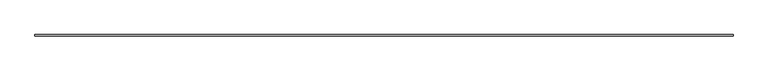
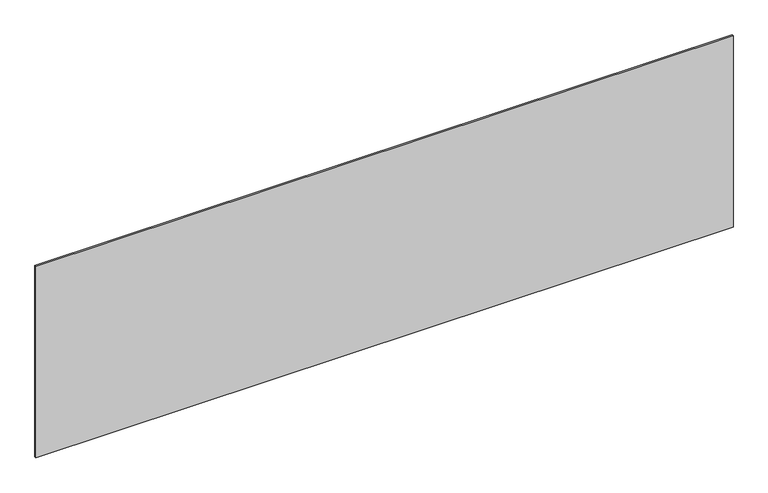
"""IFC4 building model written with IfcOpenShell, lengths in millimetres: plate geometry, システム パネル : 標準."""

import ifcopenshell
import ifcopenshell.guid

model = None  # the IFC model being written
_history = None  # IfcOwnerHistory: only IFC2X3 demands one
_inside = {}  # id of a spatial element -> (the spatial element, [elements in it])
_under = {}  # id of a project, library or spatial element -> (it, [spatial elements below it])
_declared = {}  # id of a project -> (the project, [libraries it declares])
_typed = {}  # id of a type object -> (the type object, [elements of that type])
_made_of = {}  # id of a material, layer set ... -> (it, [elements and type objects made of it])


def new_model(schema):
    """Start an empty IFC model of exactly this schema.

    Asked for "IFC4X3", IfcOpenShell would pick the latest addendum, in which some entities
    have other attributes; the version numbers below select the first issue.
    IFC2X3 requires an IfcOwnerHistory on every rooted entity: one is made here for all.
    """
    global model, _history
    if schema == "IFC4X3":
        model = ifcopenshell.file(schema_version=(4, 3, 0, 0))
    else:
        model = ifcopenshell.file(schema=schema)
    _inside.clear()
    _under.clear()
    _declared.clear()
    _typed.clear()
    _made_of.clear()
    _history = None
    if model.schema == "IFC2X3":
        org = make("IfcOrganization", Name="unknown")
        user = make(
            "IfcPersonAndOrganization",
            ThePerson=make("IfcPerson", FamilyName="unknown"),
            TheOrganization=org,
        )
        app = make(
            "IfcApplication",
            ApplicationDeveloper=org,
            Version="unknown",
            ApplicationFullName="unknown",
            ApplicationIdentifier="unknown",
        )
        _history = make(
            "IfcOwnerHistory",
            OwningUser=user,
            OwningApplication=app,
            ChangeAction="ADDED",
            CreationDate=0,
        )
    return model


def make(cls, **values):
    """One entity of the class cls with the attributes given. An attribute that is None is left unset."""
    return model.create_entity(
        cls, **{name: value for name, value in values.items() if value is not None}
    )


def rooted(cls, **values):
    """An entity with a GlobalId (a new one), such as an element, a storey or a relation."""
    return make(cls, GlobalId=ifcopenshell.guid.new(), OwnerHistory=_history, **values)


def si_unit(unit_type, name, prefix=None):
    """IfcSIUnit, for example si_unit("LENGTHUNIT", "METRE", prefix="MILLI")."""
    return make("IfcSIUnit", UnitType=unit_type, Prefix=prefix, Name=name)


def assignment(units):
    """IfcUnitAssignment: the units of a project."""
    return None if units is None else make("IfcUnitAssignment", Units=units)


def point(xyz):
    """IfcCartesianPoint."""
    return None if xyz is None else make("IfcCartesianPoint", Coordinates=xyz)


def direction(xyz):
    """IfcDirection."""
    return None if xyz is None else make("IfcDirection", DirectionRatios=xyz)


def frame(location, z_axis=None, x_axis=None):
    """IfcAxis2Placement3D, a coordinate frame: its origin and axes. An axis left out is left unset."""
    return make(
        "IfcAxis2Placement3D",
        Location=point(location),
        Axis=direction(z_axis),
        RefDirection=direction(x_axis),
    )


def origin():
    """The frame at (0, 0, 0) with its axes left unset."""
    return frame((0.0, 0.0, 0.0))


def origin_with_axes():
    """The frame at (0, 0, 0) with the z axis (0, 0, 1) and the x axis (1, 0, 0) written out."""
    return frame((0.0, 0.0, 0.0), z_axis=(0.0, 0.0, 1.0), x_axis=(1.0, 0.0, 0.0))


def place(relative_to, where):
    """IfcLocalPlacement: puts the frame where relative to a parent placement (None: the world)."""
    return make(
        "IfcLocalPlacement", PlacementRelTo=relative_to, RelativePlacement=where
    )


def context(
    kind, dimensions, precision=None, world=None, true_north=None, identifier=None
):
    """IfcGeometricRepresentationContext, for example the 3D "Model" context."""
    return make(
        "IfcGeometricRepresentationContext",
        ContextIdentifier=identifier,
        ContextType=kind,
        CoordinateSpaceDimension=dimensions,
        Precision=precision,
        WorldCoordinateSystem=world,
        TrueNorth=true_north,
    )


def project(units=None, contexts=None):
    """IfcProject with its units and contexts."""
    return rooted(
        "IfcProject",
        Name="project",
        RepresentationContexts=contexts,
        UnitsInContext=assignment(units),
    )


def spatial(cls, under=None, at=None, **own):
    """A site, building, storey or space (cls), placed at a placement, below another one or the project."""
    s = rooted(cls, ObjectPlacement=at, **own)
    if under is not None:
        _under.setdefault(under.id(), (under, []))[1].append(s)
    return s


def polyline(points):
    """IfcPolyline through the points."""
    return make("IfcPolyline", Points=[point(p) for p in points])


def outline(outer, holes=None, kind="AREA"):
    """IfcArbitraryClosedProfileDef: a profile drawn as a closed curve; with holes, ...WithVoids."""
    if holes is None:
        return make("IfcArbitraryClosedProfileDef", ProfileType=kind, OuterCurve=outer)
    return make(
        "IfcArbitraryProfileDefWithVoids",
        ProfileType=kind,
        OuterCurve=outer,
        InnerCurves=holes,
    )


def extrude(swept, where, along, depth):
    """IfcExtrudedAreaSolid: the profile swept, set in the frame where, extruded along a direction by depth."""
    return make(
        "IfcExtrudedAreaSolid",
        SweptArea=swept,
        Position=where,
        ExtrudedDirection=direction(along),
        Depth=depth,
    )


def shape(context_of_items, identifier, shape_type, items):
    """IfcShapeRepresentation: the items that make up one representation, for example the "Body"."""
    return make(
        "IfcShapeRepresentation",
        ContextOfItems=context_of_items,
        RepresentationIdentifier=identifier,
        RepresentationType=shape_type,
        Items=items,
    )


def source(mapping_origin, context_of_items, identifier, shape_type, items):
    """IfcRepresentationMap: a shape defined once, which mapped items show again and again."""
    return make(
        "IfcRepresentationMap",
        MappingOrigin=mapping_origin,
        MappedRepresentation=shape(context_of_items, identifier, shape_type, items),
    )


def transform(
    local_origin,
    x_axis=None,
    y_axis=None,
    z_axis=None,
    scale=None,
    scale2=None,
    scale3=None,
    uniform=True,
):
    """IfcCartesianTransformationOperator3D, or its non-uniform kind. x_axis, y_axis, z_axis: its Axis1, 2, 3."""
    if uniform:
        return make(
            "IfcCartesianTransformationOperator3D",
            Axis1=direction(x_axis),
            Axis2=direction(y_axis),
            LocalOrigin=point(local_origin),
            Scale=scale,
            Axis3=direction(z_axis),
        )
    return make(
        "IfcCartesianTransformationOperator3DnonUniform",
        Axis1=direction(x_axis),
        Axis2=direction(y_axis),
        LocalOrigin=point(local_origin),
        Scale=scale,
        Axis3=direction(z_axis),
        Scale2=scale2,
        Scale3=scale3,
    )


def mapped(mapping_source, mapping_target):
    """IfcMappedItem: shows the shape of a source again, moved by a transform."""
    return make(
        "IfcMappedItem", MappingSource=mapping_source, MappingTarget=mapping_target
    )


def made_of(thing, what):
    """Note that an element or type object is made of a material, layer set ...; save() writes the relation."""
    if what is not None:
        _made_of.setdefault(what.id(), (what, []))[1].append(thing)
    return thing


def element(
    cls,
    number,
    at=None,
    inside=None,
    cuts=None,
    type_object=None,
    material=None,
    context=None,
    identifier="Body",
    shape_type=None,
    held_by="IfcProductDefinitionShape",
    body=None,
    shapes=None,
    **own,
):
    """One element of the class cls, such as IfcWall. Its Tag is "e" and its number.

    at: its placement. inside: the storey or other place that contains it. cuts: it is an
    opening in that element (IfcRelVoidsElement). A single representation is given by context,
    identifier, shape_type and body (its items); several are given by shapes. held_by: the class
    of the entity that holds the representations. save() writes the other relations.
    """
    e = rooted(cls, Tag="e%d" % number, ObjectPlacement=at, **own)
    if body is not None:
        shapes = [shape(context, identifier, shape_type, body)]
    if shapes is not None:
        e.Representation = make(held_by, Representations=shapes)
    if inside is not None:
        _inside.setdefault(inside.id(), (inside, []))[1].append(e)
    if cuts is not None:
        rooted(
            "IfcRelVoidsElement", RelatingBuildingElement=cuts, RelatedOpeningElement=e
        )
    if type_object is not None:
        _typed.setdefault(type_object.id(), (type_object, []))[1].append(e)
    return made_of(e, material)


def aggregate(whole, parts):
    """IfcRelAggregates: a whole, such as a stair, and the parts it consists of."""
    return rooted("IfcRelAggregates", RelatingObject=whole, RelatedObjects=parts)


def save(model, path):
    """Write the relations noted so far, then the file.

    IfcRelAggregates (storeys below a building ...), IfcRelContainedInSpatialStructure (elements
    in a storey), IfcRelDefinesByType, IfcRelAssociatesMaterial and IfcRelDeclares: one each for
    every whole, place, type object, material and project.
    """
    for whole, parts in _under.values():
        aggregate(whole, parts)
    for where, things in _inside.values():
        rooted(
            "IfcRelContainedInSpatialStructure",
            RelatedElements=things,
            RelatingStructure=where,
        )
    for kind, things in _typed.values():
        rooted("IfcRelDefinesByType", RelatedObjects=things, RelatingType=kind)
    for what, things in _made_of.values():
        rooted("IfcRelAssociatesMaterial", RelatedObjects=things, RelatingMaterial=what)
    for by, libraries in _declared.values():
        rooted("IfcRelDeclares", RelatingContext=by, RelatedDefinitions=libraries)
    model.write(path)


def plate_d9441ac2(model_context):
    return source(origin(), model_context, "Body", "SweptSolid", [
        extrude(outline(polyline([(2264.1666667, -5.0), (-2264.1666667, -5.0), (-2264.1666667, 5.0), (2264.1666667, 5.0), (2264.1666667, -5.0)])), origin_with_axes(), (0.0, 0.0, 1.0), 1315.5633458),
    ])


if __name__ == "__main__":
    model = new_model("IFC4")
    model_context = context("Model", 3, world=origin())
    ifc_project = project(units=[si_unit("LENGTHUNIT", "METRE", prefix="MILLI")], contexts=[model_context])
    site = spatial("IfcSite", under=ifc_project)
    building = spatial("IfcBuilding", under=site)
    placement = place(None, origin())
    plate_shape = plate_d9441ac2(model_context)
    element("IfcPlate", 1, ObjectType="システム パネル : 標準", at=placement, inside=building, context=model_context, shape_type="MappedRepresentation", body=[
        mapped(plate_shape, transform((0.0, 0.0, 0.0), x_axis=(1.0, 0.0, 0.0), y_axis=(0.0, 1.0, 0.0), z_axis=(0.0, 0.0, 1.0))),
    ])
    save(model, "model.ifc")
